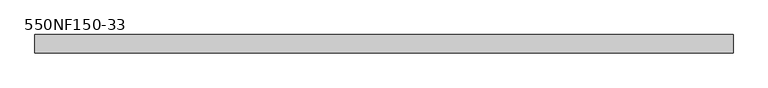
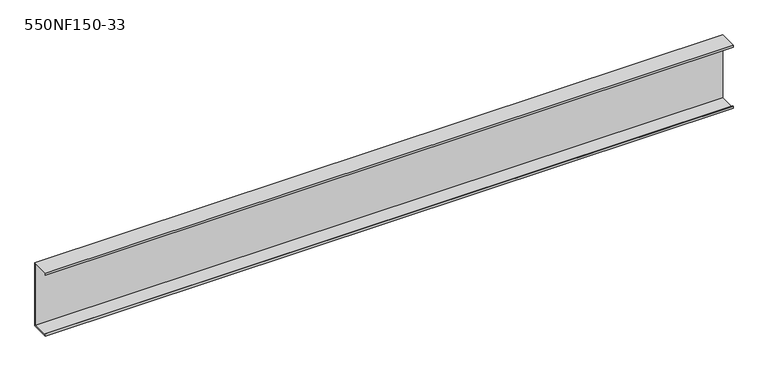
"""IFC4 building model written with IfcOpenShell, lengths in millimetres: beam geometry, BIMSF-SSMA-S : 550NF150-33."""

from ifc_helpers import new_model, si_unit, frame, origin, place, context, project, spatial, polyline, outline, extrude, source, transform, mapped, element, save


def beam_550nf150_33_e830eb72(model_context):
    return source(origin(), model_context, "Body", "SweptSolid", [
        extrude(outline(polyline([(19.05, 69.85), (19.05, -69.85), (-19.05, -69.85), (-19.05, -65.0748), (-18.1676842, -65.0748), (-18.1676842, -68.9676842), (18.1676842, -68.9676842), (18.1676842, 68.9676842), (-18.1676842, 68.9676842), (-18.1676842, 65.0748), (-19.05, 65.0748), (-19.05, 69.85), (19.05, 69.85)])), frame((-721.51875, 0.0, 0.0), z_axis=(1.0, 0.0, 0.0), x_axis=(0.0, 1.0, 0.0)), (0.0, 0.0, 1.0), 1443.0375),
    ])


if __name__ == "__main__":
    model = new_model("IFC4")
    model_context = context("Model", 3, world=origin())
    ifc_project = project(units=[si_unit("LENGTHUNIT", "METRE", prefix="MILLI")], contexts=[model_context])
    site = spatial("IfcSite", under=ifc_project)
    building = spatial("IfcBuilding", under=site)
    placement = place(None, origin())
    beam_550nf150_33_shape = beam_550nf150_33_e830eb72(model_context)
    element("IfcBeam", 1, ObjectType="BIMSF-SSMA-S : 550NF150-33", at=placement, inside=building, context=model_context, shape_type="MappedRepresentation", body=[
        mapped(beam_550nf150_33_shape, transform((0.0, 0.0, 0.0), x_axis=(1.0, 0.0, 0.0), y_axis=(0.0, 1.0, 0.0), z_axis=(0.0, 0.0, 1.0))),
    ])
    save(model, "model.ifc")
